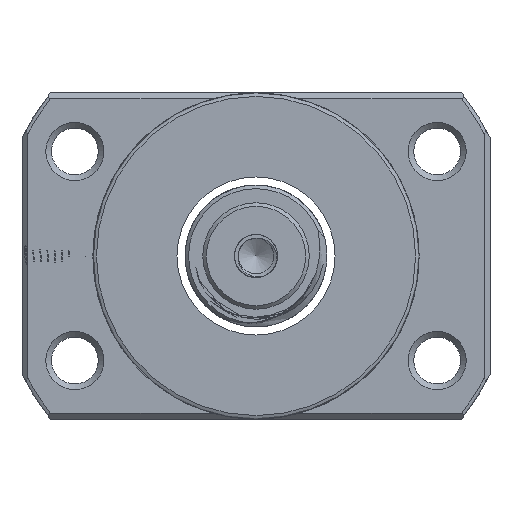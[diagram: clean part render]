
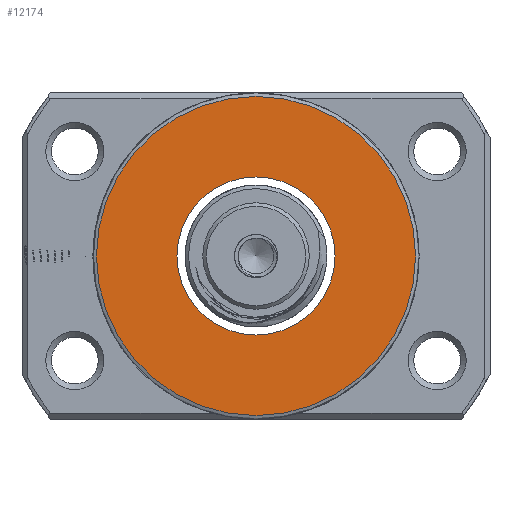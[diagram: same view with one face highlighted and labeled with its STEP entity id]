
A CAD part, left-side view. The second image highlights one B-rep face of the part: STEP entity #12174.
In plain terms, the highlighted planar face has unit normal (-1, 0, 0).
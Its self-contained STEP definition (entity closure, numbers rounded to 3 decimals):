
#1668 = DIRECTION ( 'NONE',  ( 0., 0., 1. ) ) ;
#2674 = VERTEX_POINT ( 'NONE', #21406 ) ;
#5815 = DIRECTION ( 'NONE',  ( 0., 0., 1. ) ) ;
#5819 = FACE_OUTER_BOUND ( 'NONE', #17331, .T. ) ;
#6130 = CARTESIAN_POINT ( 'NONE',  ( -53.324, 0., 22.5 ) ) ;
#9921 = EDGE_CURVE ( 'NONE', #2674, #2674, #30062, .T. ) ;
#10682 = DIRECTION ( 'NONE',  ( -1., 0., 0. ) ) ;
#10820 = CARTESIAN_POINT ( 'NONE',  ( -53.324, 0., 0. ) ) ;
#12174 = ADVANCED_FACE ( 'NONE', ( #5819, #21506 ), #28524, .T. ) ;
#12822 = CARTESIAN_POINT ( 'NONE',  ( -53.324, 11.15, 0. ) ) ;
#15952 = AXIS2_PLACEMENT_3D ( 'NONE', #10820, #20102, #1668 ) ;
#16663 = CIRCLE ( 'NONE', #25415, 22.5 ) ;
#16940 = DIRECTION ( 'NONE',  ( 0., 0., 1. ) ) ;
#17331 = EDGE_LOOP ( 'NONE', ( #20871 ) ) ;
#18329 = ORIENTED_EDGE ( 'NONE', *, *, #9921, .F. ) ;
#20102 = DIRECTION ( 'NONE',  ( -1., 0., 0. ) ) ;
#20381 = EDGE_LOOP ( 'NONE', ( #18329 ) ) ;
#20871 = ORIENTED_EDGE ( 'NONE', *, *, #22451, .T. ) ;
#21406 = CARTESIAN_POINT ( 'NONE',  ( -53.324, 0., 11.15 ) ) ;
#21506 = FACE_BOUND ( 'NONE', #20381, .T. ) ;
#22109 = DIRECTION ( 'NONE',  ( -1., 0., 0. ) ) ;
#22451 = EDGE_CURVE ( 'NONE', #26990, #26990, #16663, .T. ) ;
#22746 = AXIS2_PLACEMENT_3D ( 'NONE', #12822, #22109, #16940 ) ;
#25415 = AXIS2_PLACEMENT_3D ( 'NONE', #26825, #10682, #5815 ) ;
#26825 = CARTESIAN_POINT ( 'NONE',  ( -53.324, 0., 0. ) ) ;
#26990 = VERTEX_POINT ( 'NONE', #6130 ) ;
#28524 = PLANE ( 'NONE',  #22746 ) ;
#30062 = CIRCLE ( 'NONE', #15952, 11.15 ) ;
